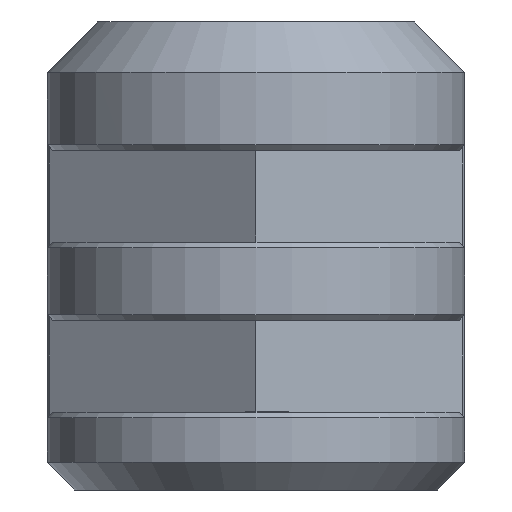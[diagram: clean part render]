
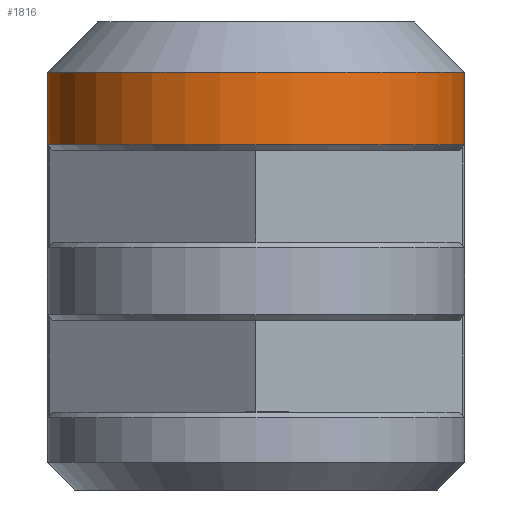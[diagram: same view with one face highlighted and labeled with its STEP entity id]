
A CAD part, left-side view. The second image highlights one B-rep face of the part: STEP entity #1816.
In plain terms, the highlighted cylindrical face has radius 7.5 mm (diameter 15 mm), a partial arc.
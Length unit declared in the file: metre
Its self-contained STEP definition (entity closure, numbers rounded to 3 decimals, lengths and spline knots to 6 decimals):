
#30=ELLIPSE('',#1950,0.010607,0.0075);
#31=ELLIPSE('',#1952,0.010607,0.0075);
#47=CIRCLE('',#1949,0.0075);
#48=CIRCLE('',#1951,0.0075);
#67=CYLINDRICAL_SURFACE('',#1948,0.0075);
#166=ORIENTED_EDGE('',*,*,#597,.T.);
#167=ORIENTED_EDGE('',*,*,#680,.T.);
#168=ORIENTED_EDGE('',*,*,#629,.F.);
#169=ORIENTED_EDGE('',*,*,#681,.T.);
#170=ORIENTED_EDGE('',*,*,#682,.T.);
#171=ORIENTED_EDGE('',*,*,#683,.T.);
#597=EDGE_CURVE('',#858,#857,#1022,.T.);
#629=EDGE_CURVE('',#889,#890,#1054,.T.);
#680=EDGE_CURVE('',#857,#890,#47,.F.);
#681=EDGE_CURVE('',#889,#922,#30,.F.);
#682=EDGE_CURVE('',#922,#921,#48,.F.);
#683=EDGE_CURVE('',#921,#858,#31,.F.);
#857=VERTEX_POINT('',#2573);
#858=VERTEX_POINT('',#2575);
#889=VERTEX_POINT('',#2638);
#890=VERTEX_POINT('',#2640);
#921=VERTEX_POINT('',#2714);
#922=VERTEX_POINT('',#2716);
#1022=LINE('',#2574,#1249);
#1054=LINE('',#2639,#1281);
#1249=VECTOR('',#2068,1.);
#1281=VECTOR('',#2102,1.);
#1490=EDGE_LOOP('',(#166,#167,#168,#169,#170,#171));
#1615=FACE_BOUND('',#1490,.T.);
#1816=ADVANCED_FACE('',(#1615),#67,.T.);
#1948=AXIS2_PLACEMENT_3D('',#2742,#2184,#2185);
#1949=AXIS2_PLACEMENT_3D('',#2743,#2186,#2187);
#1950=AXIS2_PLACEMENT_3D('',#2744,#2188,#2189);
#1951=AXIS2_PLACEMENT_3D('',#2745,#2190,#2191);
#1952=AXIS2_PLACEMENT_3D('',#2746,#2192,#2193);
#2068=DIRECTION('',(0.,0.,-1.));
#2102=DIRECTION('',(0.,0.,-1.));
#2184=DIRECTION('',(0.,0.,-1.));
#2185=DIRECTION('',(-1.,0.,0.));
#2186=DIRECTION('',(0.,0.,-1.));
#2187=DIRECTION('',(-1.,0.,0.));
#2188=DIRECTION('',(0.,0.707,-0.707));
#2189=DIRECTION('',(0.,-0.707,-0.707));
#2190=DIRECTION('',(0.,0.,1.));
#2191=DIRECTION('',(1.,0.,0.));
#2192=DIRECTION('',(0.,-0.707,-0.707));
#2193=DIRECTION('',(0.,0.707,-0.707));
#2573=CARTESIAN_POINT('',(-0.09,0.0075,0.0124));
#2574=CARTESIAN_POINT('',(-0.09,0.0075,0.015));
#2575=CARTESIAN_POINT('',(-0.09,0.0075,0.014));
#2638=CARTESIAN_POINT('',(-0.09,-0.0075,0.014));
#2639=CARTESIAN_POINT('',(-0.09,-0.0075,0.015));
#2640=CARTESIAN_POINT('',(-0.09,-0.0075,0.0124));
#2714=CARTESIAN_POINT('',(-0.086258,0.0065,0.015));
#2716=CARTESIAN_POINT('',(-0.086258,-0.0065,0.015));
#2742=CARTESIAN_POINT('',(-0.09,0.,0.015));
#2743=CARTESIAN_POINT('',(-0.09,0.,0.0124));
#2744=CARTESIAN_POINT('',(-0.09,0.,0.0215));
#2745=CARTESIAN_POINT('',(-0.09,0.,0.015));
#2746=CARTESIAN_POINT('',(-0.09,0.,0.0215));
